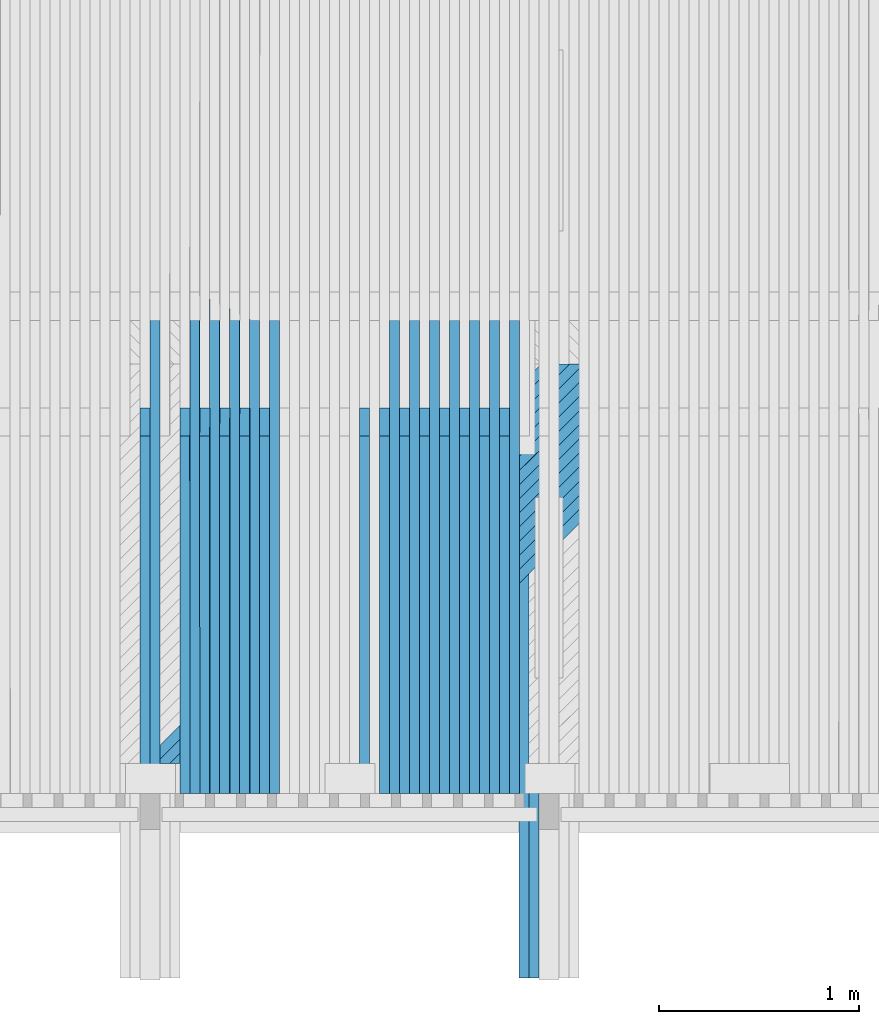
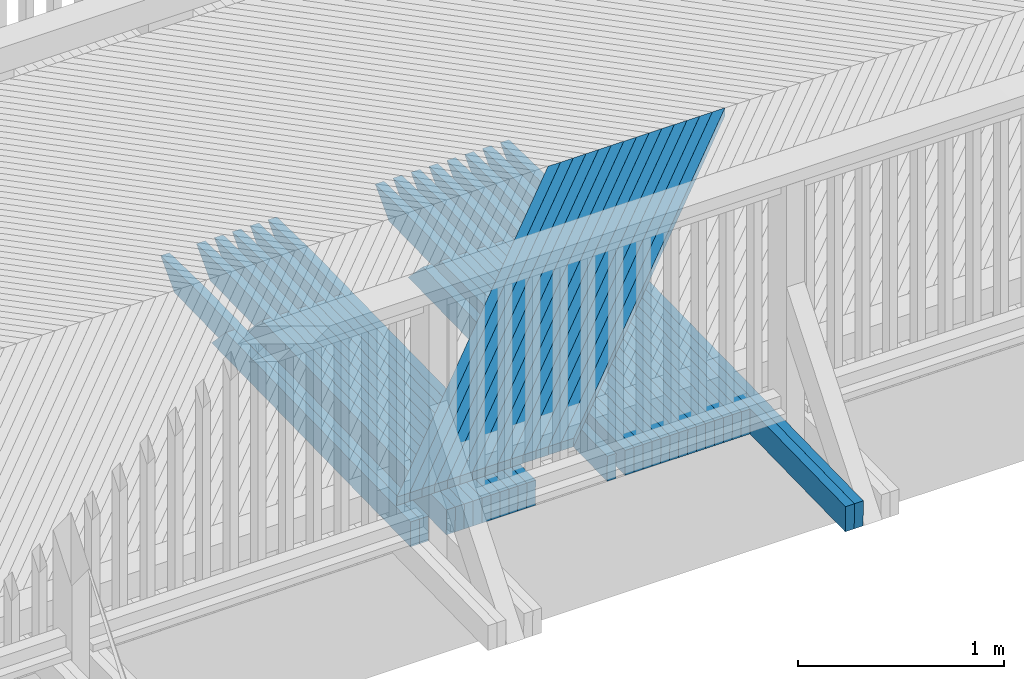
# One storey, part 24 of 53: 43 beams.
"""IFC2X3 building model written with IfcOpenShell, lengths in millimetres."""

from ifc_helpers import new_model, si_unit, frame, origin_with_axes, place, context, subcontext, project, spatial, faceted_brep, material, type_object, element, save


model = new_model("IFC2X3")

# Units and contexts
model_context = context("Model", 3, precision=1e-05, world=origin_with_axes())
body_context = subcontext(model_context, "Body", "Model", "MODEL_VIEW")
ifc_project = project(units=[si_unit("LENGTHUNIT", "METRE", prefix="MILLI"), si_unit("AREAUNIT", "SQUARE_METRE"), si_unit("VOLUMEUNIT", "CUBIC_METRE"), si_unit("MASSUNIT", "GRAM", prefix="KILO"), si_unit("TIMEUNIT", "SECOND"), si_unit("PLANEANGLEUNIT", "RADIAN"), si_unit("SOLIDANGLEUNIT", "STERADIAN"), si_unit("THERMODYNAMICTEMPERATUREUNIT", "DEGREE_CELSIUS"), si_unit("LUMINOUSINTENSITYUNIT", "LUMEN")], contexts=[model_context])

# Site, building, storey
site_placement = place(None, origin_with_axes())
site = spatial("IfcSite", under=ifc_project, at=site_placement, Name="Undefined", CompositionType="ELEMENT")
building_placement = place(site_placement, origin_with_axes())
building = spatial("IfcBuilding", under=site, at=building_placement, Name="Undefined", CompositionType="ELEMENT")
storey_placement = place(building_placement, origin_with_axes())
storey = spatial("IfcBuildingStorey", under=building, at=storey_placement, Name="Undefined", CompositionType="ELEMENT", Elevation=0.0)

# Beams
ifc_material = material(Name="TIMBER/Timber_Undefined")
beam_type_1 = type_object("IfcBeamType", Name="50*50", PredefinedType="NOTDEFINED")
for number, where, z_axis, x_axis, name in (
    (1, (8913.77277485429, 42364.5001003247, 3235.42868074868), (0.707094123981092, -0.706981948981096, -0.0139435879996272), (-0.707119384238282, -0.706948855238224, -0.0143350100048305), "BEAM"),
    (2, (8843.04861667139, 42364.5001003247, 3235.53185944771), (0.707095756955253, -0.70698194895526, -0.013860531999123), (-0.7071176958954, -0.706948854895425, -0.0144180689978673), "BEAM"),
    (3, (8772.32444685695, 42364.5001003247, 3235.62673083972), (0.707097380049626, -0.706981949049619, -0.0137774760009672), (-0.707115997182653, -0.70694885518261, -0.0145011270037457), "BEAM"),
    (4, (8701.60026638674, 42364.5001003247, 3235.71329492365), (0.707098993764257, -0.706981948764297, -0.0136944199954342), (-0.707114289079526, -0.706948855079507, -0.0145841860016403), "BEAM"),
    (5, (8630.87607623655, 42364.5001003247, 3235.79155169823), (0.707100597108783, -0.706981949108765, -0.013611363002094), (-0.707112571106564, -0.706948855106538, -0.0146672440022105), "BEAM"),
    (6, (8560.15187738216, 42364.5001003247, 3235.86150116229), (0.707102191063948, -0.706981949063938, -0.0135283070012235), (-0.707110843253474, -0.706948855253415, -0.0147503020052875), "BEAM"),
    (7, (8489.42767079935, 42364.5001003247, 3235.9231433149), (0.707103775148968, -0.706981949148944, -0.0134452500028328), (-0.707109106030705, -0.706948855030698, -0.0148333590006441), "BEAM"),
    (8, (8418.7034574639, 42364.5001003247, 3235.97647815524), (0.707105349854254, -0.706981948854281, -0.0133621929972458), (-0.70710735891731, -0.706948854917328, -0.0149164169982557), "BEAM"),
    (9, (8347.9792383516, 42364.5001003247, 3236.02150568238), (0.707106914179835, -0.706981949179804, -0.0132791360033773), (-0.707105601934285, -0.706948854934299, -0.014999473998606), "BEAM"),
    (10, (8277.25501443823, 42364.5001003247, 3236.05822589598), (0.707108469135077, -0.706981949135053, -0.0131960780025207), (-0.707103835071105, -0.706948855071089, -0.0150825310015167), "BEAM"),
    (11, (8206.53078669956, 42364.5001003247, 3236.08663879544), (0.707110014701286, -0.706981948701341, -0.0131130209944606), (-0.707102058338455, -0.70694885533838, -0.015165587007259), "BEAM"),
    (12, (8135.80655611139, 42364.5001003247, 3236.10674438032), (0.707111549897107, -0.706981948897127, -0.0130299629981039), (-0.707100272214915, -0.706948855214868, -0.0152486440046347), "BEAM"),
    (13, (8065.0823236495, 42364.5001003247, 3236.11854265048), (0.70711307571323, -0.706981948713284, -0.0129469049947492), (-0.70709847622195, -0.706948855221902, -0.0153317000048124), "BEAM"),
    (14, (7994.35809028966, 42364.5001003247, 3236.12203360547), (0.707114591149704, -0.706981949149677, -0.0128638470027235), (-0.707096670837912, -0.706948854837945, -0.0154147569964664), "BEAM"),
):
    element("IfcBeam", number, at=place(storey_placement, frame(where, z_axis=z_axis, x_axis=x_axis)), inside=storey, type_object=beam_type_1, material=ifc_material, Name=name, ObjectType="50*50", context=body_context, shape_type="Brep", body=[
        faceted_brep([(24.8942457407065, 25.0, -25.0), (-25.0086637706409, 24.9999999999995, 24.9999999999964), (2804.34067830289, 25.0, 25.0000000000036), (2854.34301907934, 24.9999999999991, -25.0000000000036), (-26.4222658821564, -25.0000000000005, 25.0000000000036), (2802.92643296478, -25.0, 25.0), (23.4806436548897, -25.0, -25.0), (2852.92877373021, -25.0000000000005, -25.0000000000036)], [[[0, 1, 2, 3]], [[1, 4, 5, 2]], [[4, 6, 7, 5]], [[6, 0, 3, 7]], [[5, 7, 3, 2]], [[6, 4, 1, 0]]]),
    ])
beam_type_2 = type_object("IfcBeamType", Name="150*50", PredefinedType="NOTDEFINED")
beam_1_placement = place(storey_placement, frame((7875.13184976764, 39292.7893167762, 3074.66226279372), z_axis=(-0.000288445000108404, -0.0199960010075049, 0.99980001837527), x_axis=(-4.53599999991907e-06, 0.99980005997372, 0.0199960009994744)))
element("IfcBeam", 15, at=beam_1_placement, inside=storey, type_object=beam_type_2, material=ifc_material, Name="BEAM", ObjectType="150*50", context=body_context, shape_type="Brep", body=[
    faceted_brep([(1.28420651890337e-08, -24.9999999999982, -74.9999999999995), (-1.28347892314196e-08, -24.9999999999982, 75.0), (-1.28347892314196e-08, 25.0, 75.0), (1.28420651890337e-08, 25.0000000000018, -75.0), (2852.32648139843, -25.0000000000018, -75.0000000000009), (2713.86938248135, -25.0000000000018, 74.9999999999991), (2713.86933800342, 25.0000000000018, 75.0), (2852.32643692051, 24.9999999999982, -75.0000000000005)], [[[0, 1, 2, 3]], [[1, 0, 4, 5]], [[2, 1, 5, 6]], [[3, 2, 6, 7]], [[0, 3, 7, 4]], [[4, 7, 6, 5]]]),
])
beam_2_placement = place(storey_placement, frame((7925.15412947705, 39292.7893321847, 3074.66838484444), z_axis=(-0.000122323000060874, -0.0199960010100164, 0.999800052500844), x_axis=(-2.7550000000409e-06, 0.999800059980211, 0.0199960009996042)))
element("IfcBeam", 16, at=beam_2_placement, inside=storey, type_object=beam_type_2, material=ifc_material, Name="BEAM", ObjectType="150*50", context=body_context, shape_type="Brep", body=[
    faceted_brep([(1.28420651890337e-08, -24.9999999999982, -74.9999999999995), (-1.28347892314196e-08, -24.9999999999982, 75.0), (-1.28347892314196e-08, 25.0, 75.0), (1.28420651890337e-08, 25.0000000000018, -75.0), (3298.90492234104, 25.0, -75.0), (3298.90497884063, -24.9999999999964, -75.0), (3434.49251531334, -24.9999999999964, 60.587536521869), (3074.32503029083, -25.0, 75.0000000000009), (3074.32503673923, 25.0000000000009, 75.0), (3434.49245887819, 25.0, 60.5875365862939)], [[[0, 1, 2, 3]], [[0, 3, 4, 5]], [[1, 0, 5, 6, 7]], [[2, 1, 7, 8]], [[4, 3, 2, 8, 9]], [[5, 4, 9, 6]], [[6, 9, 8, 7]]]),
])
beam_3_placement = place(storey_placement, frame((7775.73099692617, 40216.5046076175, 3093.10819901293), z_axis=(-0.000453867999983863, -0.0199960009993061, 0.999799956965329), x_axis=(-9.07800000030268e-06, 0.999800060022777, 0.0199959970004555)))
element("IfcBeam", 17, at=beam_3_placement, inside=storey, type_object=beam_type_2, material=ifc_material, Name="BEAM", ObjectType="150*50", context=body_context, shape_type="Brep", body=[
    faceted_brep([(1.28420651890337e-08, -24.9999999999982, -74.9999999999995), (-1.28347892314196e-08, -24.9999999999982, 75.0), (-1.28347892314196e-08, 25.0, 75.0), (1.28420651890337e-08, 25.0000000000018, -75.0), (1928.42646353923, -25.0000000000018, -75.0), (1789.96936433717, -25.0000000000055, 74.9999999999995), (1789.96936408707, 24.9999999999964, 75.0000000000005), (1928.42646328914, 24.9999999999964, -74.9999999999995)], [[[0, 1, 2, 3]], [[1, 0, 4, 5]], [[2, 1, 5, 6]], [[3, 2, 6, 7]], [[0, 3, 7, 4]], [[7, 6, 5, 4]]]),
])
beam_4_placement = place(storey_placement, frame((7825.75102780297, 40216.5046076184, 3093.12259668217), z_axis=(-0.000288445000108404, -0.0199960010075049, 0.99980001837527), x_axis=(-5.75499999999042e-06, 0.999800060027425, 0.0199959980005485)))
element("IfcBeam", 18, at=beam_4_placement, inside=storey, type_object=beam_type_2, material=ifc_material, Name="BEAM", ObjectType="150*50", context=body_context, shape_type="Brep", body=[
    faceted_brep([(1.28420651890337e-08, -24.9999999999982, -74.9999999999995), (-1.28347892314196e-08, -24.9999999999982, 75.0), (-1.28347892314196e-08, 25.0, 75.0), (1.28420651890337e-08, 25.0000000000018, -75.0), (2375.00494422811, 25.0000000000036, -75.0), (2375.0049444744, -24.9999999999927, -74.9999999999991), (2510.5924871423, -24.9999999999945, 60.5875430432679), (2150.42514405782, -24.9999999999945, 75.0), (2150.42515052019, 25.0000000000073, 75.0), (2510.59248715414, 25.0000000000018, 60.5875433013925)], [[[0, 1, 2, 3]], [[0, 3, 4, 5]], [[1, 0, 5, 6, 7]], [[2, 1, 7, 8]], [[4, 3, 2, 8, 9]], [[5, 4, 9, 6]], [[6, 9, 8, 7]]]),
])
beam_5_placement = place(storey_placement, frame((7675.71097358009, 40216.5046076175, 3093.06262608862), z_axis=(-0.000619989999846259, -0.0199960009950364, 0.999799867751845), x_axis=(-1.24010000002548e-05, 0.99980006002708, 0.0199959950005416)))
element("IfcBeam", 19, at=beam_5_placement, inside=storey, type_object=beam_type_2, material=ifc_material, Name="BEAM", ObjectType="150*50", context=body_context, shape_type="Brep", body=[
    faceted_brep([(1.28420651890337e-08, -24.9999999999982, -74.9999999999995), (-1.28347892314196e-08, -24.9999999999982, 75.0), (-1.28347892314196e-08, 25.0, 75.0), (1.28420651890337e-08, 25.0000000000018, -75.0), (1928.42646353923, -25.0000000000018, -75.0), (1789.96936433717, -25.0000000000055, 74.9999999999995), (1789.96936408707, 24.9999999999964, 75.0000000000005), (1928.42646328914, 24.9999999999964, -74.9999999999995)], [[[0, 1, 2, 3]], [[1, 0, 4, 5]], [[2, 1, 5, 6]], [[3, 2, 6, 7]], [[0, 3, 7, 4]], [[7, 6, 5, 4]]]),
])
beam_6_placement = place(storey_placement, frame((7725.73100137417, 40216.5046076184, 3093.08533485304), z_axis=(-0.000453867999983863, -0.0199960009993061, 0.999799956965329), x_axis=(-9.07800000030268e-06, 0.999800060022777, 0.0199959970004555)))
element("IfcBeam", 20, at=beam_6_placement, inside=storey, type_object=beam_type_2, material=ifc_material, Name="BEAM", ObjectType="150*50", context=body_context, shape_type="Brep", body=[
    faceted_brep([(1.28420651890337e-08, -24.9999999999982, -74.9999999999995), (-1.28347892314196e-08, -24.9999999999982, 75.0), (-1.28347892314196e-08, 25.0, 75.0), (1.28420651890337e-08, 25.0000000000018, -75.0), (2375.00494422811, 25.0000000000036, -75.0), (2375.0049444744, -24.9999999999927, -74.9999999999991), (2510.5924871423, -24.9999999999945, 60.5875430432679), (2150.42514405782, -24.9999999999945, 75.0), (2150.42515052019, 25.0000000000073, 75.0), (2510.59248715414, 25.0000000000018, 60.5875433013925)], [[[0, 1, 2, 3]], [[0, 3, 4, 5]], [[1, 0, 5, 6, 7]], [[2, 1, 7, 8]], [[4, 3, 2, 8, 9]], [[5, 4, 9, 6]], [[6, 9, 8, 7]]]),
])
beam_7_placement = place(storey_placement, frame((7575.69095918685, 40216.5046076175, 3093.00043430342), z_axis=(-0.00078611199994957, -0.0199960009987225, 0.999799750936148), x_axis=(-1.57230000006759e-05, 0.999800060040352, 0.019995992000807)))
element("IfcBeam", 21, at=beam_7_placement, inside=storey, type_object=beam_type_2, material=ifc_material, Name="BEAM", ObjectType="150*50", context=body_context, shape_type="Brep", body=[
    faceted_brep([(1.28420651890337e-08, -24.9999999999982, -74.9999999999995), (-1.28347892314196e-08, -24.9999999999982, 75.0), (-1.28347892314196e-08, 25.0, 75.0), (1.28420651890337e-08, 25.0000000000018, -75.0), (1928.42646353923, -25.0000000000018, -75.0), (1789.96936433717, -25.0000000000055, 74.9999999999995), (1789.96936408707, 24.9999999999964, 75.0000000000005), (1928.42646328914, 24.9999999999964, -74.9999999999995)], [[[0, 1, 2, 3]], [[1, 0, 4, 5]], [[2, 1, 5, 6]], [[3, 2, 6, 7]], [[0, 3, 7, 4]], [[7, 6, 5, 4]]]),
])
beam_8_placement = place(storey_placement, frame((7625.71098251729, 40216.5046076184, 3093.03145416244), z_axis=(-0.000619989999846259, -0.0199960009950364, 0.999799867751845), x_axis=(-1.24010000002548e-05, 0.99980006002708, 0.0199959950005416)))
element("IfcBeam", 22, at=beam_8_placement, inside=storey, type_object=beam_type_2, material=ifc_material, Name="BEAM", ObjectType="150*50", context=body_context, shape_type="Brep", body=[
    faceted_brep([(1.28420651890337e-08, -24.9999999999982, -74.9999999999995), (-1.28347892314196e-08, -24.9999999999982, 75.0), (-1.28347892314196e-08, 25.0, 75.0), (1.28420651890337e-08, 25.0000000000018, -75.0), (2375.00494422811, 25.0000000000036, -75.0), (2375.0049444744, -24.9999999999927, -74.9999999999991), (2510.5924871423, -24.9999999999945, 60.5875430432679), (2150.42514405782, -24.9999999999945, 75.0), (2150.42515052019, 25.0000000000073, 75.0), (2510.59248715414, 25.0000000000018, 60.5875433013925)], [[[0, 1, 2, 3]], [[0, 3, 4, 5]], [[1, 0, 5, 6, 7]], [[2, 1, 7, 8]], [[4, 3, 2, 8, 9]], [[5, 4, 9, 6]], [[6, 9, 8, 7]]]),
])
beam_9_placement = place(storey_placement, frame((7475.67095650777, 40216.5046076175, 3092.92162365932), z_axis=(-0.000952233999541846, -0.0199960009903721, 0.999799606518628), x_axis=(-1.90460000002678e-05, 0.999800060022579, 0.0199959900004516)))
element("IfcBeam", 23, at=beam_9_placement, inside=storey, type_object=beam_type_2, material=ifc_material, Name="BEAM", ObjectType="150*50", context=body_context, shape_type="Brep", body=[
    faceted_brep([(1.28420651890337e-08, -24.9999999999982, -74.9999999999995), (-1.28347892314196e-08, -24.9999999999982, 75.0), (-1.28347892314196e-08, 25.0, 75.0), (1.28420651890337e-08, 25.0000000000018, -75.0), (1928.42646353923, -25.0000000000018, -75.0), (1789.96936433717, -25.0000000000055, 74.9999999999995), (1789.96936408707, 24.9999999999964, 75.0000000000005), (1928.42646328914, 24.9999999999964, -74.9999999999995)], [[[0, 1, 2, 3]], [[1, 0, 4, 5]], [[2, 1, 5, 6]], [[3, 2, 6, 7]], [[0, 3, 7, 4]], [[7, 6, 5, 4]]]),
])
beam_10_placement = place(storey_placement, frame((7525.69097399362, 40216.5046076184, 3092.96095461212), z_axis=(-0.00078611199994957, -0.0199960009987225, 0.999799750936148), x_axis=(-1.57230000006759e-05, 0.999800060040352, 0.019995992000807)))
element("IfcBeam", 24, at=beam_10_placement, inside=storey, type_object=beam_type_2, material=ifc_material, Name="BEAM", ObjectType="150*50", context=body_context, shape_type="Brep", body=[
    faceted_brep([(1.28420651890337e-08, -24.9999999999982, -74.9999999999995), (-1.28347892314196e-08, -24.9999999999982, 75.0), (-1.28347892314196e-08, 25.0, 75.0), (1.28420651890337e-08, 25.0000000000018, -75.0), (2375.00494422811, 25.0000000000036, -75.0), (2375.0049444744, -24.9999999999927, -74.9999999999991), (2510.5924871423, -24.9999999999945, 60.5875430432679), (2150.42514405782, -24.9999999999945, 75.0), (2150.42515052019, 25.0000000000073, 75.0), (2510.59248715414, 25.0000000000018, 60.5875433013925)], [[[0, 1, 2, 3]], [[0, 3, 4, 5]], [[1, 0, 5, 6, 7]], [[2, 1, 7, 8]], [[4, 3, 2, 8, 9]], [[5, 4, 9, 6]], [[6, 9, 8, 7]]]),
])
beam_11_placement = place(storey_placement, frame((7375.65096830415, 40216.5046076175, 3092.82619415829), z_axis=(-0.00111835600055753, -0.019996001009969, 0.999799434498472), x_axis=(-2.23680000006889e-05, 0.999800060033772, 0.0199959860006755)))
element("IfcBeam", 25, at=beam_11_placement, inside=storey, type_object=beam_type_2, material=ifc_material, Name="BEAM", ObjectType="150*50", context=body_context, shape_type="Brep", body=[
    faceted_brep([(1.28420651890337e-08, -24.9999999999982, -74.9999999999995), (-1.28347892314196e-08, -24.9999999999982, 75.0), (-1.28347892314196e-08, 25.0, 75.0), (1.28420651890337e-08, 25.0000000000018, -75.0), (1928.42646353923, -25.0000000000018, -75.0), (1789.96936433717, -25.0000000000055, 74.9999999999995), (1789.96936408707, 24.9999999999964, 75.0000000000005), (1928.42646328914, 24.9999999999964, -74.9999999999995)], [[[0, 1, 2, 3]], [[1, 0, 4, 5]], [[2, 1, 5, 6]], [[3, 2, 6, 7]], [[0, 3, 7, 4]], [[7, 6, 5, 4]]]),
])
beam_12_placement = place(storey_placement, frame((7425.67097856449, 40216.5046076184, 3092.87383620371), z_axis=(-0.000952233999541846, -0.0199960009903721, 0.999799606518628), x_axis=(-1.90460000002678e-05, 0.999800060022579, 0.0199959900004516)))
element("IfcBeam", 26, at=beam_12_placement, inside=storey, type_object=beam_type_2, material=ifc_material, Name="BEAM", ObjectType="150*50", context=body_context, shape_type="Brep", body=[
    faceted_brep([(1.28420651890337e-08, -24.9999999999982, -74.9999999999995), (-1.28347892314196e-08, -24.9999999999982, 75.0), (-1.28347892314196e-08, 25.0, 75.0), (1.28420651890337e-08, 25.0000000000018, -75.0), (2375.00494422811, 25.0000000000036, -75.0), (2375.0049444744, -24.9999999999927, -74.9999999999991), (2510.5924871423, -24.9999999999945, 60.5875430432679), (2150.42514405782, -24.9999999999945, 75.0), (2150.42515052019, 25.0000000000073, 75.0), (2510.59248715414, 25.0000000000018, 60.5875433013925)], [[[0, 1, 2, 3]], [[0, 3, 4, 5]], [[1, 0, 5, 6, 7]], [[2, 1, 7, 8]], [[4, 3, 2, 8, 9]], [[5, 4, 9, 6]], [[6, 9, 8, 7]]]),
])
beam_13_placement = place(storey_placement, frame((7275.63099733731, 40216.5046076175, 3092.71414580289), z_axis=(-0.00128447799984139, -0.0199960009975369, 0.99979923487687), x_axis=(-2.56900000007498e-05, 0.999800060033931, 0.0199959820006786)))
element("IfcBeam", 27, at=beam_13_placement, inside=storey, type_object=beam_type_2, material=ifc_material, Name="BEAM", ObjectType="150*50", context=body_context, shape_type="Brep", body=[
    faceted_brep([(1.28420651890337e-08, -24.9999999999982, -74.9999999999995), (-1.28347892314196e-08, -24.9999999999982, 75.0), (-1.28347892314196e-08, 25.0, 75.0), (1.28420651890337e-08, 25.0000000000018, -75.0), (1928.42646353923, -25.0000000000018, -75.0), (1789.96936433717, -25.0000000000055, 74.9999999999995), (1789.96936408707, 24.9999999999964, 75.0000000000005), (1928.42646328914, 24.9999999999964, -74.9999999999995)], [[[0, 1, 2, 3]], [[1, 0, 4, 5]], [[2, 1, 5, 6]], [[3, 2, 6, 7]], [[0, 3, 7, 4]], [[7, 6, 5, 4]]]),
])
beam_14_placement = place(storey_placement, frame((7325.6509989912, 40216.5046076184, 3092.77009893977), z_axis=(-0.00111835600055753, -0.019996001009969, 0.999799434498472), x_axis=(-2.23680000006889e-05, 0.999800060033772, 0.0199959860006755)))
element("IfcBeam", 28, at=beam_14_placement, inside=storey, type_object=beam_type_2, material=ifc_material, Name="BEAM", ObjectType="150*50", context=body_context, shape_type="Brep", body=[
    faceted_brep([(1.28420651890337e-08, -24.9999999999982, -74.9999999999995), (-1.28347892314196e-08, -24.9999999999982, 75.0), (-1.28347892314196e-08, 25.0, 75.0), (1.28420651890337e-08, 25.0000000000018, -75.0), (2375.00494422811, 25.0000000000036, -75.0), (2375.0049444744, -24.9999999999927, -74.9999999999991), (2510.5924871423, -24.9999999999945, 60.5875430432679), (2150.42514405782, -24.9999999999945, 75.0), (2150.42515052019, 25.0000000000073, 75.0), (2510.59248715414, 25.0000000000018, 60.5875433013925)], [[[0, 1, 2, 3]], [[0, 3, 4, 5]], [[1, 0, 5, 6, 7]], [[2, 1, 7, 8]], [[4, 3, 2, 8, 9]], [[5, 4, 9, 6]], [[6, 9, 8, 7]]]),
])
beam_15_placement = place(storey_placement, frame((7175.61104636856, 40216.5046076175, 3092.58547859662), z_axis=(-0.00145059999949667, -0.0199960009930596, 0.999799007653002), x_axis=(-2.90130000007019e-05, 0.999800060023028, 0.0199959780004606)))
element("IfcBeam", 29, at=beam_15_placement, inside=storey, type_object=beam_type_2, material=ifc_material, Name="BEAM", ObjectType="150*50", context=body_context, shape_type="Brep", body=[
    faceted_brep([(1.28420651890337e-08, -24.9999999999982, -74.9999999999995), (-1.28347892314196e-08, -24.9999999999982, 75.0), (-1.28347892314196e-08, 25.0, 75.0), (1.28420651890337e-08, 25.0000000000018, -75.0), (1928.42646353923, -25.0000000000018, -75.0), (1789.96936433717, -25.0000000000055, 74.9999999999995), (1789.96936408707, 24.9999999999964, 75.0000000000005), (1928.42646328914, 24.9999999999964, -74.9999999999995)], [[[0, 1, 2, 3]], [[1, 0, 4, 5]], [[2, 1, 5, 6]], [[3, 2, 6, 7]], [[0, 3, 7, 4]], [[7, 6, 5, 4]]]),
])
beam_16_placement = place(storey_placement, frame((7225.63103803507, 40216.5046076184, 3092.64974282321), z_axis=(-0.00128447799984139, -0.0199960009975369, 0.99979923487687), x_axis=(-2.56900000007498e-05, 0.999800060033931, 0.0199959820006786)))
element("IfcBeam", 30, at=beam_16_placement, inside=storey, type_object=beam_type_2, material=ifc_material, Name="BEAM", ObjectType="150*50", context=body_context, shape_type="Brep", body=[
    faceted_brep([(1.28420651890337e-08, -24.9999999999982, -74.9999999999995), (-1.28347892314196e-08, -24.9999999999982, 75.0), (-1.28347892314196e-08, 25.0, 75.0), (1.28420651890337e-08, 25.0000000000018, -75.0), (2375.00494422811, 25.0000000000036, -75.0), (2375.0049444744, -24.9999999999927, -74.9999999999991), (2510.5924871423, -24.9999999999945, 60.5875430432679), (2150.42514405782, -24.9999999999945, 75.0), (2150.42515052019, 25.0000000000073, 75.0), (2510.59248715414, 25.0000000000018, 60.5875433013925)], [[[0, 1, 2, 3]], [[0, 3, 4, 5]], [[1, 0, 5, 6, 7]], [[2, 1, 7, 8]], [[4, 3, 2, 8, 9]], [[5, 4, 9, 6]], [[6, 9, 8, 7]]]),
])
for number, where, z_axis, x_axis, name in (
    (31, (7075.5911181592, 40216.5046076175, 3092.44019254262), (-0.00161672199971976, -0.0199960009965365, 0.999798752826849), (-3.23350000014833e-05, 0.999800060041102, 0.019995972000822), "BEAM"),
    (32, (6575.49191514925, 40216.5046076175, 3091.46447971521), (-0.00244733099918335, -0.0199960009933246, 0.999797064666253), (-4.894700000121e-05, 0.999800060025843, 0.0199959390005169), "BEAM"),
):
    element("IfcBeam", number, at=place(storey_placement, frame(where, z_axis=z_axis, x_axis=x_axis)), inside=storey, type_object=beam_type_2, material=ifc_material, Name=name, ObjectType="150*50", context=body_context, shape_type="Brep", body=[
        faceted_brep([(1.28420651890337e-08, -24.9999999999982, -74.9999999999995), (-1.28347892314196e-08, -24.9999999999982, 75.0), (-1.28347892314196e-08, 25.0, 75.0), (1.28420651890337e-08, 25.0000000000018, -75.0), (1928.42646353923, -25.0000000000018, -75.0), (1789.96936433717, -25.0000000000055, 74.9999999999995), (1789.96936408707, 24.9999999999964, 75.0000000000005), (1928.42646328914, 24.9999999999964, -74.9999999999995)], [[[0, 1, 2, 3]], [[1, 0, 4, 5]], [[2, 1, 5, 6]], [[3, 2, 6, 7]], [[0, 3, 7, 4]], [[7, 6, 5, 4]]]),
    ])
beam_17_placement = place(storey_placement, frame((6625.51181789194, 40216.5046076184, 3091.57861043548), z_axis=(-0.00228120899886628, -0.019996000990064, 0.999797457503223), x_axis=(-4.5625000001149e-05, 0.99980006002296, 0.0199959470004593)))
element("IfcBeam", 33, at=beam_17_placement, inside=storey, type_object=beam_type_2, material=ifc_material, Name="BEAM", ObjectType="150*50", context=body_context, shape_type="Brep", body=[
    faceted_brep([(1.28420651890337e-08, -24.9999999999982, -74.9999999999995), (-1.28347892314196e-08, -24.9999999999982, 75.0), (-1.28347892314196e-08, 25.0, 75.0), (1.28420651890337e-08, 25.0000000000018, -75.0), (2375.00494422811, 25.0000000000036, -75.0), (2375.0049444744, -24.9999999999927, -74.9999999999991), (2510.5924871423, -24.9999999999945, 60.5875430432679), (2150.42514405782, -24.9999999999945, 75.0), (2150.42515052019, 25.0000000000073, 75.0), (2510.59248715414, 25.0000000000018, 60.5875433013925)], [[[0, 1, 2, 3]], [[0, 3, 4, 5]], [[1, 0, 5, 6, 7]], [[2, 1, 7, 8]], [[4, 3, 2, 8, 9]], [[5, 4, 9, 6]], [[6, 9, 8, 7]]]),
])
beam_18_placement = place(storey_placement, frame((6475.47218148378, 40216.5046076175, 3091.21948067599), z_axis=(-0.00261345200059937, -0.0199960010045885, 0.999796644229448), x_axis=(-5.22700000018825e-05, 0.999800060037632, 0.0199959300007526)))
element("IfcBeam", 34, at=beam_18_placement, inside=storey, type_object=beam_type_2, material=ifc_material, Name="BEAM", ObjectType="150*50", context=body_context, shape_type="Brep", body=[
    faceted_brep([(1.28420651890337e-08, -24.9999999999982, -74.9999999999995), (-1.28347892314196e-08, -24.9999999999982, 75.0), (-1.28347892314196e-08, 25.0, 75.0), (1.28420651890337e-08, 25.0000000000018, -75.0), (1928.42646353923, -25.0000000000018, -75.0), (1789.96936433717, -25.0000000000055, 74.9999999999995), (1789.96936408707, 24.9999999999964, 75.0000000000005), (1928.42646328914, 24.9999999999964, -74.9999999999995)], [[[0, 1, 2, 3]], [[1, 0, 4, 5]], [[2, 1, 5, 6]], [[3, 2, 6, 7]], [[0, 3, 7, 4]], [[7, 6, 5, 4]]]),
])
beam_19_placement = place(storey_placement, frame((6525.49206457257, 40216.5046076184, 3091.34192246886), z_axis=(-0.00244733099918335, -0.0199960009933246, 0.999797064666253), x_axis=(-4.894700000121e-05, 0.999800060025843, 0.0199959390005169)))
element("IfcBeam", 35, at=beam_19_placement, inside=storey, type_object=beam_type_2, material=ifc_material, Name="BEAM", ObjectType="150*50", context=body_context, shape_type="Brep", body=[
    faceted_brep([(1.28420651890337e-08, -24.9999999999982, -74.9999999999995), (-1.28347892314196e-08, -24.9999999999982, 75.0), (-1.28347892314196e-08, 25.0, 75.0), (1.28420651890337e-08, 25.0000000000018, -75.0), (2375.00494422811, 25.0000000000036, -75.0), (2375.0049444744, -24.9999999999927, -74.9999999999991), (2510.5924871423, -24.9999999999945, 60.5875430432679), (2150.42514405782, -24.9999999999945, 75.0), (2150.42515052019, 25.0000000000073, 75.0), (2510.59248715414, 25.0000000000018, 60.5875433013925)], [[[0, 1, 2, 3]], [[0, 3, 4, 5]], [[1, 0, 5, 6, 7]], [[2, 1, 7, 8]], [[4, 3, 2, 8, 9]], [[5, 4, 9, 6]], [[6, 9, 8, 7]]]),
])
beam_20_placement = place(storey_placement, frame((6375.45248990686, 40216.5046076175, 3090.957862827), z_axis=(-0.00277957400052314, -0.0199960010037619, 0.99979619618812), x_axis=(-5.55920000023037e-05, 0.999800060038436, 0.0199959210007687)))
element("IfcBeam", 36, at=beam_20_placement, inside=storey, type_object=beam_type_2, material=ifc_material, Name="BEAM", ObjectType="150*50", context=body_context, shape_type="Brep", body=[
    faceted_brep([(1.28420651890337e-08, -24.9999999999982, -74.9999999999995), (-1.28347892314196e-08, -24.9999999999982, 75.0), (-1.28347892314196e-08, 25.0, 75.0), (1.28420651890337e-08, 25.0000000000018, -75.0), (1928.42646353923, -25.0000000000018, -75.0), (1789.96936433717, -25.0000000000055, 74.9999999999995), (1789.96936408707, 24.9999999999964, 75.0000000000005), (1928.42646328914, 24.9999999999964, -74.9999999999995)], [[[0, 1, 2, 3]], [[1, 0, 4, 5]], [[2, 1, 5, 6]], [[3, 2, 6, 7]], [[0, 3, 7, 4]], [[7, 6, 5, 4]]]),
])
beam_21_placement = place(storey_placement, frame((6425.47235196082, 40216.5046076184, 3091.08861568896), z_axis=(-0.00261345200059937, -0.0199960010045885, 0.999796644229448), x_axis=(-5.22700000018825e-05, 0.999800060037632, 0.0199959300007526)))
element("IfcBeam", 37, at=beam_21_placement, inside=storey, type_object=beam_type_2, material=ifc_material, Name="BEAM", ObjectType="150*50", context=body_context, shape_type="Brep", body=[
    faceted_brep([(1.28420651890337e-08, -24.9999999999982, -74.9999999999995), (-1.28347892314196e-08, -24.9999999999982, 75.0), (-1.28347892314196e-08, 25.0, 75.0), (1.28420651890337e-08, 25.0000000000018, -75.0), (2375.00494422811, 25.0000000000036, -75.0), (2375.0049444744, -24.9999999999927, -74.9999999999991), (2510.5924871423, -24.9999999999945, 60.5875430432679), (2150.42514405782, -24.9999999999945, 75.0), (2150.42515052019, 25.0000000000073, 75.0), (2510.59248715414, 25.0000000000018, 60.5875433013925)], [[[0, 1, 2, 3]], [[0, 3, 4, 5]], [[1, 0, 5, 6, 7]], [[2, 1, 7, 8]], [[4, 3, 2, 8, 9]], [[5, 4, 9, 6]], [[6, 9, 8, 7]]]),
])
beam_22_placement = place(storey_placement, frame((6275.43284317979, 40216.5046076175, 3090.6796261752), z_axis=(-0.00294569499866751, -0.019996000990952, 0.999795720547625), x_axis=(-5.89150000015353e-05, 0.999800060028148, 0.0199959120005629)))
element("IfcBeam", 38, at=beam_22_placement, inside=storey, type_object=beam_type_2, material=ifc_material, Name="BEAM", ObjectType="150*50", context=body_context, shape_type="Brep", body=[
    faceted_brep([(1.28420651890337e-08, -24.9999999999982, -74.9999999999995), (-1.28347892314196e-08, -24.9999999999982, 75.0), (-1.28347892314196e-08, 25.0, 75.0), (1.28420651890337e-08, 25.0000000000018, -75.0), (1928.42646353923, -25.0000000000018, -75.0), (1789.96936433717, -25.0000000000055, 74.9999999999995), (1789.96936408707, 24.9999999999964, 75.0000000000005), (1928.42646328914, 24.9999999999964, -74.9999999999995)], [[[0, 1, 2, 3]], [[1, 0, 4, 5]], [[2, 1, 5, 6]], [[3, 2, 6, 7]], [[0, 3, 7, 4]], [[7, 6, 5, 4]]]),
])
beam_23_placement = place(storey_placement, frame((6325.45268281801, 40216.5046076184, 3090.81869010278), z_axis=(-0.00277957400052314, -0.0199960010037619, 0.99979619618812), x_axis=(-5.55920000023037e-05, 0.999800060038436, 0.0199959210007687)))
element("IfcBeam", 39, at=beam_23_placement, inside=storey, type_object=beam_type_2, material=ifc_material, Name="BEAM", ObjectType="150*50", context=body_context, shape_type="Brep", body=[
    faceted_brep([(1.28420651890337e-08, -24.9999999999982, -74.9999999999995), (-1.28347892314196e-08, -24.9999999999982, 75.0), (-1.28347892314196e-08, 25.0, 75.0), (1.28420651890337e-08, 25.0000000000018, -75.0), (2375.00494422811, 25.0000000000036, -75.0), (2375.0049444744, -24.9999999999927, -74.9999999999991), (2510.5924871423, -24.9999999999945, 60.5875430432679), (2150.42514405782, -24.9999999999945, 75.0), (2150.42515052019, 25.0000000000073, 75.0), (2510.59248715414, 25.0000000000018, 60.5875433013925)], [[[0, 1, 2, 3]], [[0, 3, 4, 5]], [[1, 0, 5, 6, 7]], [[2, 1, 7, 8]], [[4, 3, 2, 8, 9]], [[5, 4, 9, 6]], [[6, 9, 8, 7]]]),
])
beam_24_placement = place(storey_placement, frame((6175.41324406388, 40216.5046076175, 3090.38477072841), z_axis=(-0.00311234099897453, -0.0199960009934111, 0.999795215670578), x_axis=(-6.22370000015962e-05, 0.999800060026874, 0.0199959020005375)))
element("IfcBeam", 40, at=beam_24_placement, inside=storey, type_object=beam_type_2, material=ifc_material, Name="BEAM", ObjectType="150*50", context=body_context, shape_type="Brep", body=[
    faceted_brep([(1.28420651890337e-08, -24.9999999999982, -74.9999999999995), (-1.28347892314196e-08, -24.9999999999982, 75.0), (-1.28347892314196e-08, 25.0, 75.0), (1.28420651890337e-08, 25.0000000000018, -75.0), (1928.42646353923, -25.0000000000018, -75.0), (1789.96936433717, -25.0000000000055, 74.9999999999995), (1789.96936408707, 24.9999999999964, 75.0000000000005), (1928.42646328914, 24.9999999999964, -74.9999999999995)], [[[0, 1, 2, 3]], [[1, 0, 4, 5]], [[2, 1, 5, 6]], [[3, 2, 6, 7]], [[0, 3, 7, 4]], [[7, 6, 5, 4]]]),
])
beam_25_placement = place(storey_placement, frame((6225.43305990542, 40216.5046076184, 3090.53214571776), z_axis=(-0.00294569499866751, -0.019996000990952, 0.999795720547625), x_axis=(-5.89150000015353e-05, 0.999800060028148, 0.0199959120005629)))
element("IfcBeam", 41, at=beam_25_placement, inside=storey, type_object=beam_type_2, material=ifc_material, Name="BEAM", ObjectType="150*50", context=body_context, shape_type="Brep", body=[
    faceted_brep([(1.28420651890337e-08, -24.9999999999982, -74.9999999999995), (-1.28347892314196e-08, -24.9999999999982, 75.0), (-1.28347892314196e-08, 25.0, 75.0), (1.28420651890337e-08, 25.0000000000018, -75.0), (2375.00494422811, 25.0000000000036, -75.0), (2375.0049444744, -24.9999999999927, -74.9999999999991), (2510.5924871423, -24.9999999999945, 60.5875430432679), (2150.42514405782, -24.9999999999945, 75.0), (2150.42515052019, 25.0000000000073, 75.0), (2510.59248715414, 25.0000000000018, 60.5875433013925)], [[[0, 1, 2, 3]], [[0, 3, 4, 5]], [[1, 0, 5, 6, 7]], [[2, 1, 7, 8]], [[4, 3, 2, 8, 9]], [[5, 4, 9, 6]], [[6, 9, 8, 7]]]),
])
beam_26_placement = place(storey_placement, frame((5975.37419971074, 40216.5046076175, 3089.74520348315), z_axis=(-0.00344458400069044, -0.0199960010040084, 0.999794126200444), x_axis=(-6.91999999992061e-05, 0.999800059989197, 0.019995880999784)))
element("IfcBeam", 42, at=beam_26_placement, inside=storey, type_object=beam_type_2, material=ifc_material, Name="BEAM", ObjectType="150*50", context=body_context, shape_type="Brep", body=[
    faceted_brep([(1.28420651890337e-08, -24.9999999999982, -74.9999999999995), (-1.28347892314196e-08, -24.9999999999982, 75.0), (-1.28347892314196e-08, 25.0, 75.0), (1.28420651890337e-08, 25.0000000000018, -75.0), (1928.42646353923, -25.0000000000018, -75.0), (1789.96936433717, -25.0000000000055, 74.9999999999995), (1789.96936408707, 24.9999999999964, 75.0000000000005), (1928.42646328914, 24.9999999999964, -74.9999999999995)], [[[0, 1, 2, 3]], [[1, 0, 4, 5]], [[2, 1, 5, 6]], [[3, 2, 6, 7]], [[0, 3, 7, 4]], [[7, 6, 5, 4]]]),
])
beam_27_placement = place(storey_placement, frame((6025.39396381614, 40216.5046076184, 3089.90920058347), z_axis=(-0.00327846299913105, -0.0199960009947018, 0.999794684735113), x_axis=(-6.55590000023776e-05, 0.999800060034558, 0.0199958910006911)))
element("IfcBeam", 43, at=beam_27_placement, inside=storey, type_object=beam_type_2, material=ifc_material, Name="BEAM", ObjectType="150*50", context=body_context, shape_type="Brep", body=[
    faceted_brep([(1.28420651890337e-08, -24.9999999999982, -74.9999999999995), (-1.28347892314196e-08, -24.9999999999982, 75.0), (-1.28347892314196e-08, 25.0, 75.0), (1.28420651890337e-08, 25.0000000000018, -75.0), (2375.00494422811, 25.0000000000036, -75.0), (2375.0049444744, -24.9999999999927, -74.9999999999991), (2510.5924871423, -24.9999999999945, 60.5875430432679), (2150.42514405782, -24.9999999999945, 75.0), (2150.42515052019, 25.0000000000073, 75.0), (2510.59248715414, 25.0000000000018, 60.5875433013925)], [[[0, 1, 2, 3]], [[0, 3, 4, 5]], [[1, 0, 5, 6, 7]], [[2, 1, 7, 8]], [[4, 3, 2, 8, 9]], [[5, 4, 9, 6]], [[6, 9, 8, 7]]]),
])

save(model, "model.ifc")
